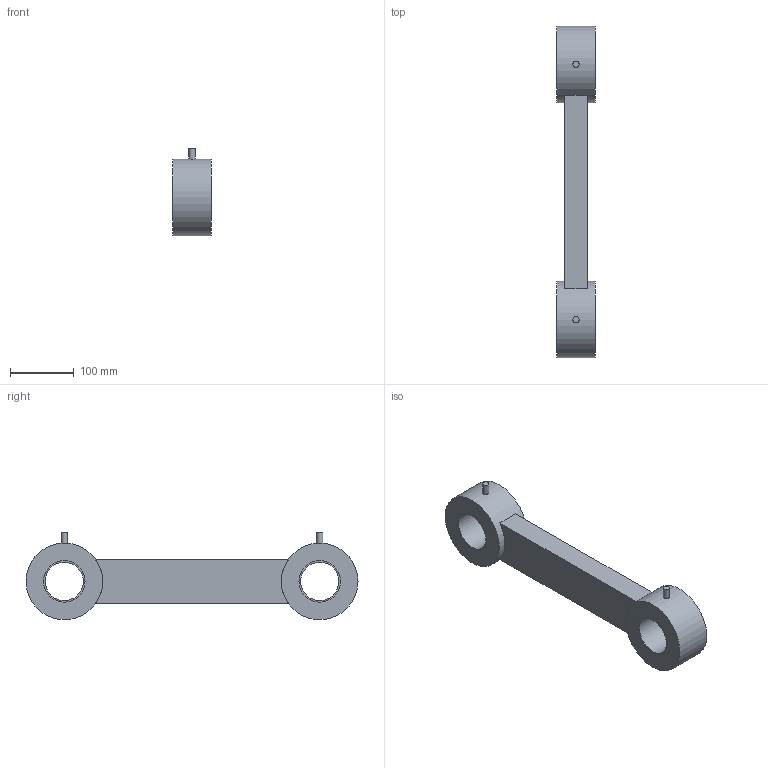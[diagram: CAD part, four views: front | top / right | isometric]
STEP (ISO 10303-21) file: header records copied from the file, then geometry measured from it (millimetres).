
FILE_DESCRIPTION(('Open CASCADE Model'),'2;1');
FILE_NAME('Open CASCADE Shape Model','2026-09-19T12:55:11',('Author'),( 'Open CASCADE'),'Open CASCADE STEP processor 7.9','Open CASCADE 7.9' ,'Unknown');
FILE_SCHEMA(('AUTOMOTIVE_DESIGN { 1 0 10303 214 1 1 1 1 }'));
Length unit declared in the file: millimetre
Products named in the file (6): Open CASCADE STEP translator 7.9 10; Open CASCADE STEP translator 7.9 10.1; Open CASCADE STEP translator 7.9 10.2; Open CASCADE STEP translator 7.9 10.3; Open CASCADE STEP translator 7.9 10.4; Open CASCADE STEP translator 7.9 10.5
Assembly tree (5 placements, depth 2):
  Open CASCADE STEP translator 7.9 10
    Open CASCADE STEP translator 7.9 10.1
    Open CASCADE STEP translator 7.9 10.2
    Open CASCADE STEP translator 7.9 10.3
    Open CASCADE STEP translator 7.9 10.4
    Open CASCADE STEP translator 7.9 10.5
Bounding box: 60 x 520 x 137 mm (x, y, z)
Volume: 1724195.8 mm3; surface area: 208332.8 mm2
Topology: 5 solids, 5 shells, 26 faces, 42 edges, 28 vertices
Faces by surface type: plane 16, cylinder 10
Full cylindrical faces by diameter (mm): 10 x2, 60 x2, 65 x4, 120 x2
Entity records: 1256 total; most frequent: DIRECTION 206, CARTESIAN_POINT 194, ORIENTED_EDGE 84, PCURVE 84, DEFINITIONAL_REPRESENTATION 84, LINE 70, VECTOR 70, AXIS2_PLACEMENT_3D 56
